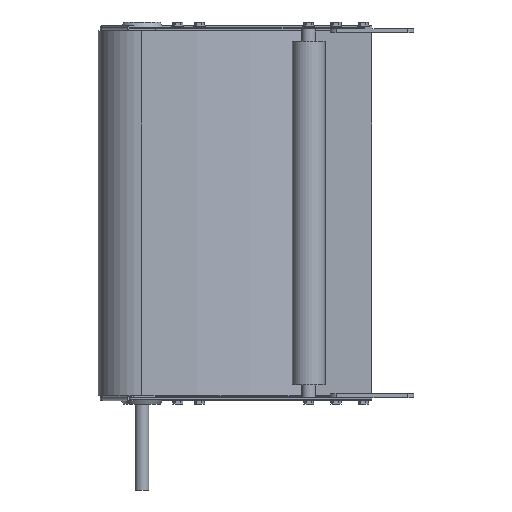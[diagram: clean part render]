
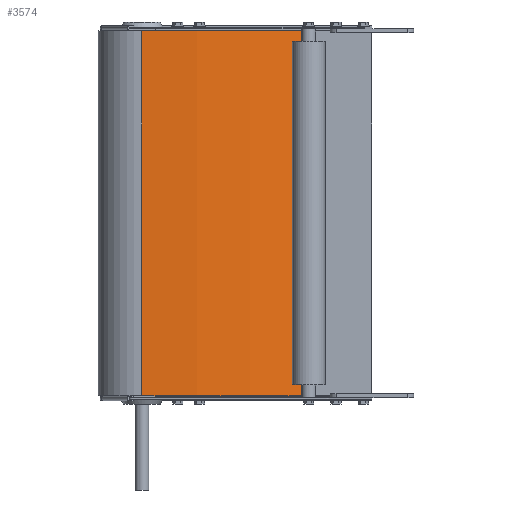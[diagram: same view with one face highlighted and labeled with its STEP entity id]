
A CAD part, front view. The second image highlights one B-rep face of the part: STEP entity #3574.
In plain terms, the highlighted cylindrical face has radius 508.8 mm (diameter 1017.6 mm), a partial arc.
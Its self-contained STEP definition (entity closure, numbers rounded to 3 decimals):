
#315 = AXIS2_PLACEMENT_3D ( 'NONE', #7840, #4090, #3985 ) ;
#406 = VECTOR ( 'NONE', #2308, 1000. ) ;
#499 = CIRCLE ( 'NONE', #2974, 508.8 ) ;
#935 = ORIENTED_EDGE ( 'NONE', *, *, #3463, .T. ) ;
#1551 = CARTESIAN_POINT ( 'NONE',  ( 63.571, -127.4, 266.7 ) ) ;
#1998 = DIRECTION ( 'NONE',  ( -1., 0., 0. ) ) ;
#2141 = FACE_OUTER_BOUND ( 'NONE', #9114, .T. ) ;
#2258 = CARTESIAN_POINT ( 'NONE',  ( 63.571, -127.4, -266.7 ) ) ;
#2308 = DIRECTION ( 'NONE',  ( 0., 0., 1. ) ) ;
#2728 = CARTESIAN_POINT ( 'NONE',  ( 64.602, 381.399, -266.7 ) ) ;
#2921 = LINE ( 'NONE', #5908, #4847 ) ;
#2974 = AXIS2_PLACEMENT_3D ( 'NONE', #2728, #8673, #1998 ) ;
#3425 = CIRCLE ( 'NONE', #315, 508.8 ) ;
#3463 = EDGE_CURVE ( 'NONE', #9484, #4158, #499, .T. ) ;
#3574 = ADVANCED_FACE ( 'NONE', ( #2141 ), #7363, .T. ) ;
#3594 = EDGE_CURVE ( 'NONE', #4158, #8931, #2921, .T. ) ;
#3654 = DIRECTION ( 'NONE',  ( 1., 0., 0. ) ) ;
#3701 = DIRECTION ( 'NONE',  ( 0., 0., 1. ) ) ;
#3768 = EDGE_CURVE ( 'NONE', #5648, #8931, #3425, .T. ) ;
#3985 = DIRECTION ( 'NONE',  ( -1., 0., 0. ) ) ;
#4090 = DIRECTION ( 'NONE',  ( 0., 0., 1. ) ) ;
#4158 = VERTEX_POINT ( 'NONE', #8389 ) ;
#4488 = ORIENTED_EDGE ( 'NONE', *, *, #3594, .T. ) ;
#4847 = VECTOR ( 'NONE', #5169, 1000. ) ;
#5169 = DIRECTION ( 'NONE',  ( 0., 0., 1. ) ) ;
#5319 = ORIENTED_EDGE ( 'NONE', *, *, #7866, .F. ) ;
#5375 = LINE ( 'NONE', #2258, #406 ) ;
#5648 = VERTEX_POINT ( 'NONE', #1551 ) ;
#5794 = AXIS2_PLACEMENT_3D ( 'NONE', #9538, #3701, #3654 ) ;
#5908 = CARTESIAN_POINT ( 'NONE',  ( 296.602, -71.429, -266.7 ) ) ;
#6873 = CARTESIAN_POINT ( 'NONE',  ( 63.571, -127.4, -266.7 ) ) ;
#7363 = CYLINDRICAL_SURFACE ( 'NONE', #5794, 508.8 ) ;
#7840 = CARTESIAN_POINT ( 'NONE',  ( 64.602, 381.399, 266.7 ) ) ;
#7866 = EDGE_CURVE ( 'NONE', #9484, #5648, #5375, .T. ) ;
#7958 = CARTESIAN_POINT ( 'NONE',  ( 296.602, -71.429, 266.7 ) ) ;
#8389 = CARTESIAN_POINT ( 'NONE',  ( 296.602, -71.429, -266.7 ) ) ;
#8673 = DIRECTION ( 'NONE',  ( 0., 0., 1. ) ) ;
#8896 = ORIENTED_EDGE ( 'NONE', *, *, #3768, .F. ) ;
#8931 = VERTEX_POINT ( 'NONE', #7958 ) ;
#9114 = EDGE_LOOP ( 'NONE', ( #8896, #5319, #935, #4488 ) ) ;
#9484 = VERTEX_POINT ( 'NONE', #6873 ) ;
#9538 = CARTESIAN_POINT ( 'NONE',  ( 64.602, 381.399, -266.7 ) ) ;
